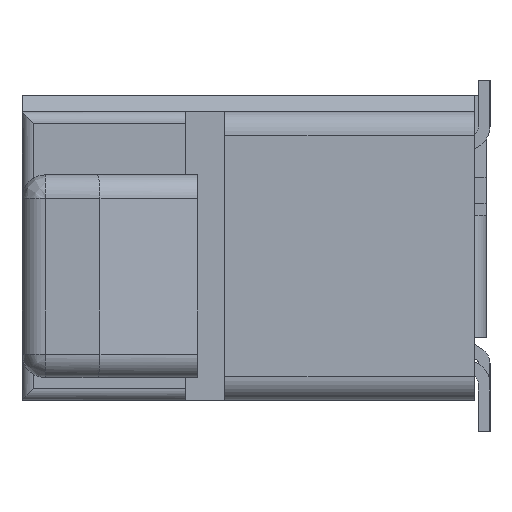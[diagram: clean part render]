
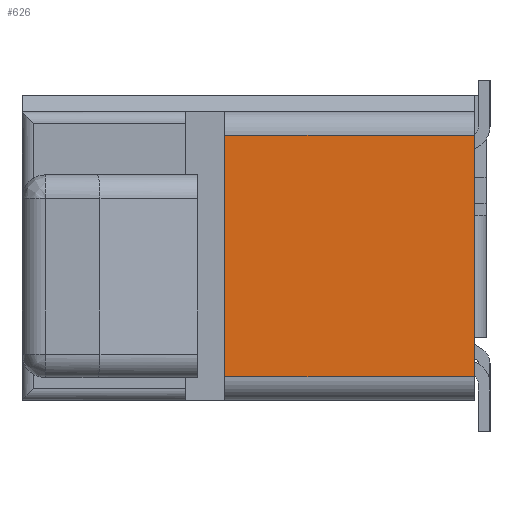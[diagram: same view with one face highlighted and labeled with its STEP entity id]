
A CAD part, left-side view. The second image highlights one B-rep face of the part: STEP entity #626.
In plain terms, the highlighted planar face has unit normal (-1, 0, 0).
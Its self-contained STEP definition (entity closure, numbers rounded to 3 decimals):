
#626 = ADVANCED_FACE ( 'NONE', ( #5988 ), #5989, .T. ) ;
#2299 = EDGE_CURVE ( 'NONE', #2811, #2947, #9203, .T. ) ;
#2403 = EDGE_CURVE ( 'NONE', #2947, #2961, #9524, .T. ) ;
#2404 = EDGE_CURVE ( 'NONE', #2982, #2961, #9527, .T. ) ;
#2405 = EDGE_CURVE ( 'NONE', #2982, #2811, #9530, .T. ) ;
#2811 = VERTEX_POINT ( 'NONE', #10940 ) ;
#2947 = VERTEX_POINT ( 'NONE', #11076 ) ;
#2961 = VERTEX_POINT ( 'NONE', #11090 ) ;
#2982 = VERTEX_POINT ( 'NONE', #11111 ) ;
#3336 = EDGE_LOOP ( 'NONE', ( #4289, #4290, #4291, #4292 ) ) ;
#4289 = ORIENTED_EDGE ( 'NONE', *, *, #2403, .T. ) ;
#4290 = ORIENTED_EDGE ( 'NONE', *, *, #2404, .F. ) ;
#4291 = ORIENTED_EDGE ( 'NONE', *, *, #2405, .T. ) ;
#4292 = ORIENTED_EDGE ( 'NONE', *, *, #2299, .T. ) ;
#5984 = CARTESIAN_POINT ( 'NONE',  ( -10.99, 0.2, -1.89 ) ) ;
#5988 = FACE_OUTER_BOUND ( 'NONE', #3336, .T. ) ;
#5989 = PLANE ( 'NONE',  #13982 ) ;
#5991 = DIRECTION ( 'NONE',  ( -1., 0., 0. ) ) ;
#5992 = DIRECTION ( 'NONE',  ( 0., 0., 1. ) ) ;
#9200 = CARTESIAN_POINT ( 'NONE',  ( -10.99, 3.4, -0.34 ) ) ;
#9203 = LINE ( 'NONE', #9200, #10036 ) ;
#9210 = DIRECTION ( 'NONE',  ( 0., 0., -1. ) ) ;
#9524 = LINE ( 'NONE', #9525, #10176 ) ;
#9525 = CARTESIAN_POINT ( 'NONE',  ( -10.99, 1.8, -1.89 ) ) ;
#9526 = DIRECTION ( 'NONE',  ( 0., -1., 0. ) ) ;
#9527 = LINE ( 'NONE', #9528, #10177 ) ;
#9528 = CARTESIAN_POINT ( 'NONE',  ( -10.99, 0.2, -0.235 ) ) ;
#9529 = DIRECTION ( 'NONE',  ( 0., 0., -1. ) ) ;
#9530 = LINE ( 'NONE', #9531, #10178 ) ;
#9531 = CARTESIAN_POINT ( 'NONE',  ( -10.99, 1.8, 1.21 ) ) ;
#9532 = DIRECTION ( 'NONE',  ( 0., 1., 0. ) ) ;
#10036 = VECTOR ( 'NONE', #9210, 1000. ) ;
#10176 = VECTOR ( 'NONE', #9526, 1000. ) ;
#10177 = VECTOR ( 'NONE', #9529, 1000. ) ;
#10178 = VECTOR ( 'NONE', #9532, 1000. ) ;
#10940 = CARTESIAN_POINT ( 'NONE',  ( -10.99, 3.4, 1.21 ) ) ;
#11076 = CARTESIAN_POINT ( 'NONE',  ( -10.99, 3.4, -1.89 ) ) ;
#11090 = CARTESIAN_POINT ( 'NONE',  ( -10.99, 0.2, -1.89 ) ) ;
#11111 = CARTESIAN_POINT ( 'NONE',  ( -10.99, 0.2, 1.21 ) ) ;
#13982 = AXIS2_PLACEMENT_3D ( 'NONE', #5984, #5991, #5992 ) ;
